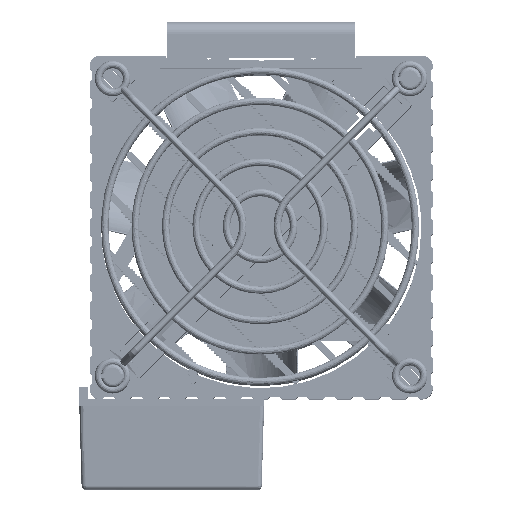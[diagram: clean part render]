
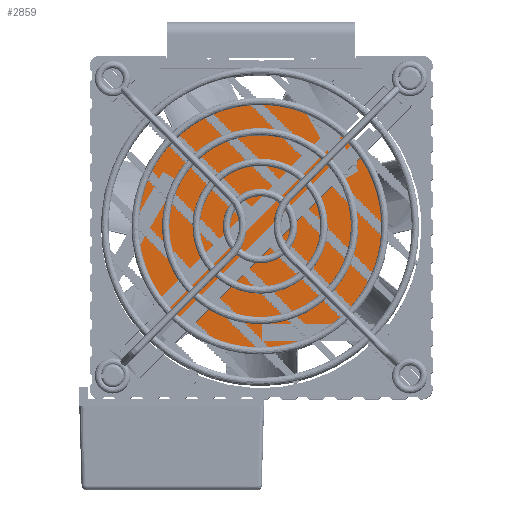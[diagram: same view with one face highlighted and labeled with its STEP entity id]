
A CAD part, top view. The second image highlights one B-rep face of the part: STEP entity #2859.
In plain terms, the highlighted planar face has unit normal (0, 0, 1).
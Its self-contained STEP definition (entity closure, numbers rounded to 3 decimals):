
#2859=ADVANCED_FACE('',(#5453),#44949,.T.);
#5453=FACE_OUTER_BOUND('',#8038,.T.);
#8038=EDGE_LOOP('',(#21930,#21931,#21932,#21933,#21934,#21935,#21936,#21937,
#21938,#21939,#21940,#21941,#21942));
#21930=ORIENTED_EDGE('',*,*,#29794,.T.);
#21931=ORIENTED_EDGE('',*,*,#29765,.T.);
#21932=ORIENTED_EDGE('',*,*,#29764,.T.);
#21933=ORIENTED_EDGE('',*,*,#29796,.T.);
#21934=ORIENTED_EDGE('',*,*,#29770,.T.);
#21935=ORIENTED_EDGE('',*,*,#29778,.T.);
#21936=ORIENTED_EDGE('',*,*,#29769,.T.);
#21937=ORIENTED_EDGE('',*,*,#29768,.T.);
#21938=ORIENTED_EDGE('',*,*,#29780,.T.);
#21939=ORIENTED_EDGE('',*,*,#29786,.T.);
#21940=ORIENTED_EDGE('',*,*,#29767,.T.);
#21941=ORIENTED_EDGE('',*,*,#29766,.T.);
#21942=ORIENTED_EDGE('',*,*,#29788,.T.);
#29764=EDGE_CURVE('',#42194,#42210,#33771,.T.);
#29765=EDGE_CURVE('',#42195,#42194,#33772,.T.);
#29766=EDGE_CURVE('',#42196,#42206,#33773,.T.);
#29767=EDGE_CURVE('',#42197,#42196,#33774,.T.);
#29768=EDGE_CURVE('',#42198,#42202,#33775,.T.);
#29769=EDGE_CURVE('',#42199,#42198,#33776,.T.);
#29770=EDGE_CURVE('',#42200,#42203,#37426,.T.);
#29778=EDGE_CURVE('',#42203,#42199,#33781,.T.);
#29780=EDGE_CURVE('',#42202,#42207,#37430,.T.);
#29786=EDGE_CURVE('',#42207,#42197,#33787,.T.);
#29788=EDGE_CURVE('',#42206,#42211,#37432,.T.);
#29794=EDGE_CURVE('',#42211,#42195,#33792,.T.);
#29796=EDGE_CURVE('',#42210,#42200,#37435,.T.);
#33771=B_SPLINE_CURVE_WITH_KNOTS('',1,(#85031,#85032),.UNSPECIFIED.,.F.,
 .F.,(2,2),(37.298,55.649),.UNSPECIFIED.);
#33772=B_SPLINE_CURVE_WITH_KNOTS('',1,(#85033,#85034),.UNSPECIFIED.,.F.,
 .F.,(2,2),(102.028,106.028),.UNSPECIFIED.);
#33773=B_SPLINE_CURVE_WITH_KNOTS('',1,(#85035,#85036),.UNSPECIFIED.,.F.,
 .F.,(2,2),(37.298,55.649),.UNSPECIFIED.);
#33774=B_SPLINE_CURVE_WITH_KNOTS('',1,(#85037,#85038),.UNSPECIFIED.,.F.,
 .F.,(2,2),(102.028,106.028),.UNSPECIFIED.);
#33775=B_SPLINE_CURVE_WITH_KNOTS('',1,(#85039,#85040),.UNSPECIFIED.,.F.,
 .F.,(2,2),(37.298,55.649),.UNSPECIFIED.);
#33776=B_SPLINE_CURVE_WITH_KNOTS('',1,(#85041,#85042),.UNSPECIFIED.,.F.,
 .F.,(2,2),(102.028,106.028),.UNSPECIFIED.);
#33781=B_SPLINE_CURVE_WITH_KNOTS('',1,(#85073,#85074),.UNSPECIFIED.,.F.,
 .F.,(2,2),(90.265,102.028),.UNSPECIFIED.);
#33787=B_SPLINE_CURVE_WITH_KNOTS('',1,(#85101,#85102),.UNSPECIFIED.,.F.,
 .F.,(2,2),(90.265,102.028),.UNSPECIFIED.);
#33792=B_SPLINE_CURVE_WITH_KNOTS('',1,(#85126,#85127),.UNSPECIFIED.,.F.,
 .F.,(2,2),(90.265,102.028),.UNSPECIFIED.);
#37426=(
BOUNDED_CURVE()
B_SPLINE_CURVE(2,(#85043,#85044,#85045),.UNSPECIFIED.,.F.,.F.)
B_SPLINE_CURVE_WITH_KNOTS((3,3),(0.,27.453),.UNSPECIFIED.)
CURVE()
GEOMETRIC_REPRESENTATION_ITEM()
RATIONAL_B_SPLINE_CURVE((1.,0.892,1.))
REPRESENTATION_ITEM('')
);
#37430=(
BOUNDED_CURVE()
B_SPLINE_CURVE(2,(#85077,#85078,#85079,#85080,#85081),.UNSPECIFIED.,.F.,
 .F.)
B_SPLINE_CURVE_WITH_KNOTS((3,2,3),(34.942,46.338,89.183),
 .UNSPECIFIED.)
CURVE()
GEOMETRIC_REPRESENTATION_ITEM()
RATIONAL_B_SPLINE_CURVE((1.,0.983,1.,0.745,1.))
REPRESENTATION_ITEM('')
);
#37432=(
BOUNDED_CURVE()
B_SPLINE_CURVE(2,(#85105,#85106,#85107,#85108,#85109),.UNSPECIFIED.,.F.,
 .F.)
B_SPLINE_CURVE_WITH_KNOTS((3,2,3),(97.548,139.015,151.696),
 .UNSPECIFIED.)
CURVE()
GEOMETRIC_REPRESENTATION_ITEM()
RATIONAL_B_SPLINE_CURVE((1.,0.759,1.,0.979,1.))
REPRESENTATION_ITEM('')
);
#37435=(
BOUNDED_CURVE()
B_SPLINE_CURVE(2,(#85130,#85131,#85132),.UNSPECIFIED.,.F.,.F.)
B_SPLINE_CURVE_WITH_KNOTS((3,3),(159.141,185.354),
 .UNSPECIFIED.)
CURVE()
GEOMETRIC_REPRESENTATION_ITEM()
RATIONAL_B_SPLINE_CURVE((1.,0.902,1.))
REPRESENTATION_ITEM('')
);
#42194=VERTEX_POINT('',#84265);
#42195=VERTEX_POINT('',#84266);
#42196=VERTEX_POINT('',#84267);
#42197=VERTEX_POINT('',#84268);
#42198=VERTEX_POINT('',#84269);
#42199=VERTEX_POINT('',#84270);
#42200=VERTEX_POINT('',#84271);
#42202=VERTEX_POINT('',#84273);
#42203=VERTEX_POINT('',#84274);
#42206=VERTEX_POINT('',#84277);
#42207=VERTEX_POINT('',#84278);
#42210=VERTEX_POINT('',#84281);
#42211=VERTEX_POINT('',#84282);
#44949=PLANE('',#45744);
#45744=AXIS2_PLACEMENT_3D('',#83776,#46522,$);
#46522=DIRECTION('',(0.,0.,1.));
#83776=CARTESIAN_POINT('',(-134.35,41.5,0.));
#84265=CARTESIAN_POINT('',(-104.728,48.,0.));
#84266=CARTESIAN_POINT('',(-104.728,44.,0.));
#84267=CARTESIAN_POINT('',(-124.83,82.394,0.));
#84268=CARTESIAN_POINT('',(-128.294,84.394,0.));
#84269=CARTESIAN_POINT('',(-84.992,82.606,0.));
#84270=CARTESIAN_POINT('',(-81.528,84.606,0.));
#84271=CARTESIAN_POINT('',(-75.35,71.,0.));
#84273=CARTESIAN_POINT('',(-94.168,98.498,0.));
#84274=CARTESIAN_POINT('',(-87.41,94.793,0.));
#84277=CARTESIAN_POINT('',(-134.005,66.502,0.));
#84278=CARTESIAN_POINT('',(-134.175,74.207,0.));
#84281=CARTESIAN_POINT('',(-86.377,48.,0.));
#84282=CARTESIAN_POINT('',(-92.965,44.,0.));
#85031=CARTESIAN_POINT('',(-104.728,48.,0.));
#85032=CARTESIAN_POINT('',(-86.377,48.,0.));
#85033=CARTESIAN_POINT('',(-104.728,44.,0.));
#85034=CARTESIAN_POINT('',(-104.728,48.,0.));
#85035=CARTESIAN_POINT('',(-124.83,82.394,0.));
#85036=CARTESIAN_POINT('',(-134.005,66.502,0.));
#85037=CARTESIAN_POINT('',(-128.294,84.394,0.));
#85038=CARTESIAN_POINT('',(-124.83,82.394,0.));
#85039=CARTESIAN_POINT('',(-84.992,82.606,0.));
#85040=CARTESIAN_POINT('',(-94.168,98.498,0.));
#85041=CARTESIAN_POINT('',(-81.528,84.606,0.));
#85042=CARTESIAN_POINT('',(-84.992,82.606,0.));
#85043=CARTESIAN_POINT('',(-75.35,71.,0.));
#85044=CARTESIAN_POINT('',(-75.35,85.953,0.));
#85045=CARTESIAN_POINT('',(-87.41,94.793,0.));
#85073=CARTESIAN_POINT('',(-87.41,94.793,0.));
#85074=CARTESIAN_POINT('',(-81.528,84.606,0.));
#85077=CARTESIAN_POINT('',(-94.168,98.498,0.));
#85078=CARTESIAN_POINT('',(-99.321,100.5,0.));
#85079=CARTESIAN_POINT('',(-104.85,100.5,0.));
#85080=CARTESIAN_POINT('',(-131.299,100.5,0.));
#85081=CARTESIAN_POINT('',(-134.175,74.207,0.));
#85101=CARTESIAN_POINT('',(-134.175,74.207,0.));
#85102=CARTESIAN_POINT('',(-128.294,84.394,0.));
#85105=CARTESIAN_POINT('',(-134.005,66.502,0.));
#85106=CARTESIAN_POINT('',(-130.148,41.5,0.));
#85107=CARTESIAN_POINT('',(-104.85,41.5,0.));
#85108=CARTESIAN_POINT('',(-98.645,41.5,0.));
#85109=CARTESIAN_POINT('',(-92.965,44.,0.));
#85126=CARTESIAN_POINT('',(-92.965,44.,0.));
#85127=CARTESIAN_POINT('',(-104.728,44.,0.));
#85130=CARTESIAN_POINT('',(-86.377,48.,0.));
#85131=CARTESIAN_POINT('',(-75.35,56.857,0.));
#85132=CARTESIAN_POINT('',(-75.35,71.,0.));
